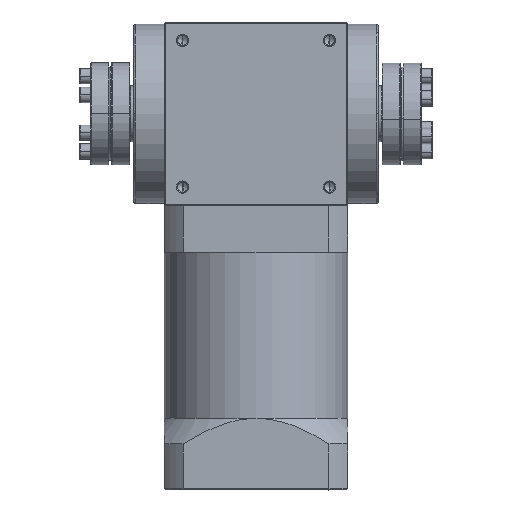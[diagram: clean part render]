
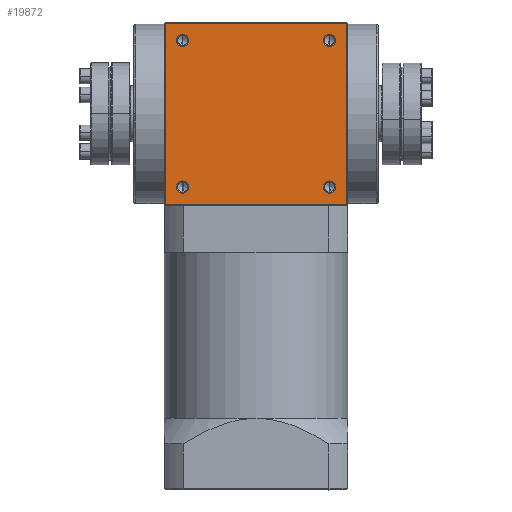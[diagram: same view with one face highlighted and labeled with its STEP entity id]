
A CAD part, top view. The second image highlights one B-rep face of the part: STEP entity #19872.
In plain terms, the highlighted planar face has unit normal (0, 0, 1).
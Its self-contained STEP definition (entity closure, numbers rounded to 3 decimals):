
#26 = LINE ( 'NONE', #6643, #2320 ) ;
#343 = CARTESIAN_POINT ( 'NONE',  ( -33., -36., 45. ) ) ;
#570 = CARTESIAN_POINT ( 'NONE',  ( 36., 36., 45. ) ) ;
#876 = DIRECTION ( 'NONE',  ( 1., 0., 0. ) ) ;
#899 = DIRECTION ( 'NONE',  ( 0., 0., 1. ) ) ;
#903 = CARTESIAN_POINT ( 'NONE',  ( 36., -36., 45. ) ) ;
#1302 = DIRECTION ( 'NONE',  ( 0., -1., 0. ) ) ;
#1311 = CARTESIAN_POINT ( 'NONE',  ( 44.5, 0., 45. ) ) ;
#1537 = AXIS2_PLACEMENT_3D ( 'NONE', #10326, #10141, #10119 ) ;
#1548 = VECTOR ( 'NONE', #6946, 1000. ) ;
#1629 = VERTEX_POINT ( 'NONE', #14226 ) ;
#2320 = VECTOR ( 'NONE', #6616, 1000. ) ;
#2354 = LINE ( 'NONE', #6970, #1548 ) ;
#2810 = AXIS2_PLACEMENT_3D ( 'NONE', #3407, #3341, #3390 ) ;
#2963 = VERTEX_POINT ( 'NONE', #18457 ) ;
#3341 = DIRECTION ( 'NONE',  ( 0., 0., 1. ) ) ;
#3390 = DIRECTION ( 'NONE',  ( 1., 0., 0. ) ) ;
#3407 = CARTESIAN_POINT ( 'NONE',  ( 36., 36., 45. ) ) ;
#3797 = EDGE_LOOP ( 'NONE', ( #11597, #7080 ) ) ;
#4197 = LINE ( 'NONE', #16415, #9439 ) ;
#4273 = LINE ( 'NONE', #1311, #14857 ) ;
#4308 = CIRCLE ( 'NONE', #8632, 3. ) ;
#4737 = AXIS2_PLACEMENT_3D ( 'NONE', #15399, #15965, #15959 ) ;
#5139 = DIRECTION ( 'NONE',  ( 1., 0., 0. ) ) ;
#5157 = DIRECTION ( 'NONE',  ( 0., 0., 1. ) ) ;
#5160 = CARTESIAN_POINT ( 'NONE',  ( -36., 36., 45. ) ) ;
#5343 = VERTEX_POINT ( 'NONE', #14480 ) ;
#5354 = VERTEX_POINT ( 'NONE', #14760 ) ;
#5701 = VERTEX_POINT ( 'NONE', #18066 ) ;
#5803 = CIRCLE ( 'NONE', #6185, 3. ) ;
#5826 = CIRCLE ( 'NONE', #6882, 3. ) ;
#5989 = DIRECTION ( 'NONE',  ( 1., 0., 0. ) ) ;
#6046 = DIRECTION ( 'NONE',  ( 0., 0., 1. ) ) ;
#6051 = CARTESIAN_POINT ( 'NONE',  ( 36., -36., 45. ) ) ;
#6185 = AXIS2_PLACEMENT_3D ( 'NONE', #5160, #5157, #5139 ) ;
#6616 = DIRECTION ( 'NONE',  ( 0., 1., 0. ) ) ;
#6643 = CARTESIAN_POINT ( 'NONE',  ( -44.5, 0., 45. ) ) ;
#6882 = AXIS2_PLACEMENT_3D ( 'NONE', #903, #899, #876 ) ;
#6946 = DIRECTION ( 'NONE',  ( 1., 0., 0. ) ) ;
#6970 = CARTESIAN_POINT ( 'NONE',  ( 0., 44.5, 45. ) ) ;
#7080 = ORIENTED_EDGE ( 'NONE', *, *, #15766, .F. ) ;
#7282 = FACE_BOUND ( 'NONE', #9611, .T. ) ;
#7417 = CARTESIAN_POINT ( 'NONE',  ( -36., -36., 45. ) ) ;
#7435 = DIRECTION ( 'NONE',  ( 0., 0., 1. ) ) ;
#7457 = VERTEX_POINT ( 'NONE', #12549 ) ;
#8180 = ORIENTED_EDGE ( 'NONE', *, *, #13272, .F. ) ;
#8380 = DIRECTION ( 'NONE',  ( 1., 0., 0. ) ) ;
#8406 = DIRECTION ( 'NONE',  ( 0., 0., 1. ) ) ;
#8415 = CARTESIAN_POINT ( 'NONE',  ( -36., -36., 45. ) ) ;
#8442 = CIRCLE ( 'NONE', #17914, 3. ) ;
#8632 = AXIS2_PLACEMENT_3D ( 'NONE', #8415, #8406, #8380 ) ;
#8767 = AXIS2_PLACEMENT_3D ( 'NONE', #6051, #6046, #5989 ) ;
#9084 = VERTEX_POINT ( 'NONE', #343 ) ;
#9216 = ORIENTED_EDGE ( 'NONE', *, *, #14896, .F. ) ;
#9367 = EDGE_LOOP ( 'NONE', ( #19520, #9216 ) ) ;
#9439 = VECTOR ( 'NONE', #18936, 1000. ) ;
#9594 = EDGE_CURVE ( 'NONE', #9084, #19830, #13242, .T. ) ;
#9598 = EDGE_CURVE ( 'NONE', #7457, #5354, #8442, .T. ) ;
#9611 = EDGE_LOOP ( 'NONE', ( #19400, #8180 ) ) ;
#10116 = CARTESIAN_POINT ( 'NONE',  ( 44.5, 44.5, 45. ) ) ;
#10119 = DIRECTION ( 'NONE',  ( -1., 0., 0. ) ) ;
#10141 = DIRECTION ( 'NONE',  ( 0., 0., -1. ) ) ;
#10275 = PLANE ( 'NONE',  #1537 ) ;
#10326 = CARTESIAN_POINT ( 'NONE',  ( 44.5, -44.5, 45. ) ) ;
#10820 = CARTESIAN_POINT ( 'NONE',  ( -39., -36., 45. ) ) ;
#11334 = ORIENTED_EDGE ( 'NONE', *, *, #17272, .F. ) ;
#11597 = ORIENTED_EDGE ( 'NONE', *, *, #9598, .F. ) ;
#11728 = EDGE_LOOP ( 'NONE', ( #15368, #13378, #15492, #13443 ) ) ;
#12065 = FACE_OUTER_BOUND ( 'NONE', #11728, .T. ) ;
#12549 = CARTESIAN_POINT ( 'NONE',  ( 39., 36., 45. ) ) ;
#13242 = CIRCLE ( 'NONE', #17946, 3. ) ;
#13272 = EDGE_CURVE ( 'NONE', #19830, #9084, #4308, .T. ) ;
#13378 = ORIENTED_EDGE ( 'NONE', *, *, #17782, .F. ) ;
#13443 = ORIENTED_EDGE ( 'NONE', *, *, #17242, .F. ) ;
#14042 = EDGE_CURVE ( 'NONE', #16521, #1629, #5826, .T. ) ;
#14226 = CARTESIAN_POINT ( 'NONE',  ( 39., -36., 45. ) ) ;
#14241 = CARTESIAN_POINT ( 'NONE',  ( 33., -36., 45. ) ) ;
#14263 = VERTEX_POINT ( 'NONE', #19055 ) ;
#14480 = CARTESIAN_POINT ( 'NONE',  ( 44.5, -44.5, 45. ) ) ;
#14760 = CARTESIAN_POINT ( 'NONE',  ( 33., 36., 45. ) ) ;
#14857 = VECTOR ( 'NONE', #1302, 1000. ) ;
#14896 = EDGE_CURVE ( 'NONE', #5701, #18595, #16480, .T. ) ;
#15180 = FACE_BOUND ( 'NONE', #9367, .T. ) ;
#15368 = ORIENTED_EDGE ( 'NONE', *, *, #18076, .T. ) ;
#15399 = CARTESIAN_POINT ( 'NONE',  ( -36., 36., 45. ) ) ;
#15491 = VERTEX_POINT ( 'NONE', #10116 ) ;
#15492 = ORIENTED_EDGE ( 'NONE', *, *, #17214, .F. ) ;
#15611 = FACE_BOUND ( 'NONE', #17131, .T. ) ;
#15766 = EDGE_CURVE ( 'NONE', #5354, #7457, #19617, .T. ) ;
#15795 = ORIENTED_EDGE ( 'NONE', *, *, #14042, .F. ) ;
#15959 = DIRECTION ( 'NONE',  ( 1., 0., 0. ) ) ;
#15965 = DIRECTION ( 'NONE',  ( 0., 0., 1. ) ) ;
#16415 = CARTESIAN_POINT ( 'NONE',  ( 0., -44.5, 45. ) ) ;
#16480 = CIRCLE ( 'NONE', #4737, 3. ) ;
#16521 = VERTEX_POINT ( 'NONE', #14241 ) ;
#17131 = EDGE_LOOP ( 'NONE', ( #11334, #15795 ) ) ;
#17214 = EDGE_CURVE ( 'NONE', #14263, #15491, #2354, .T. ) ;
#17242 = EDGE_CURVE ( 'NONE', #2963, #14263, #26, .T. ) ;
#17272 = EDGE_CURVE ( 'NONE', #1629, #16521, #17467, .T. ) ;
#17353 = EDGE_CURVE ( 'NONE', #18595, #5701, #5803, .T. ) ;
#17467 = CIRCLE ( 'NONE', #8767, 3. ) ;
#17729 = FACE_BOUND ( 'NONE', #3797, .T. ) ;
#17782 = EDGE_CURVE ( 'NONE', #15491, #5343, #4273, .T. ) ;
#17914 = AXIS2_PLACEMENT_3D ( 'NONE', #570, #19011, #19029 ) ;
#17946 = AXIS2_PLACEMENT_3D ( 'NONE', #7417, #7435, #18958 ) ;
#18066 = CARTESIAN_POINT ( 'NONE',  ( -39., 36., 45. ) ) ;
#18076 = EDGE_CURVE ( 'NONE', #2963, #5343, #4197, .T. ) ;
#18457 = CARTESIAN_POINT ( 'NONE',  ( -44.5, -44.5, 45. ) ) ;
#18595 = VERTEX_POINT ( 'NONE', #19734 ) ;
#18936 = DIRECTION ( 'NONE',  ( 1., 0., 0. ) ) ;
#18958 = DIRECTION ( 'NONE',  ( 1., 0., 0. ) ) ;
#19011 = DIRECTION ( 'NONE',  ( 0., 0., 1. ) ) ;
#19029 = DIRECTION ( 'NONE',  ( 1., 0., 0. ) ) ;
#19055 = CARTESIAN_POINT ( 'NONE',  ( -44.5, 44.5, 45. ) ) ;
#19400 = ORIENTED_EDGE ( 'NONE', *, *, #9594, .F. ) ;
#19520 = ORIENTED_EDGE ( 'NONE', *, *, #17353, .F. ) ;
#19617 = CIRCLE ( 'NONE', #2810, 3. ) ;
#19734 = CARTESIAN_POINT ( 'NONE',  ( -33., 36., 45. ) ) ;
#19830 = VERTEX_POINT ( 'NONE', #10820 ) ;
#19872 = ADVANCED_FACE ( 'NONE', ( #15180, #17729, #7282, #15611, #12065 ), #10275, .F. ) ;
